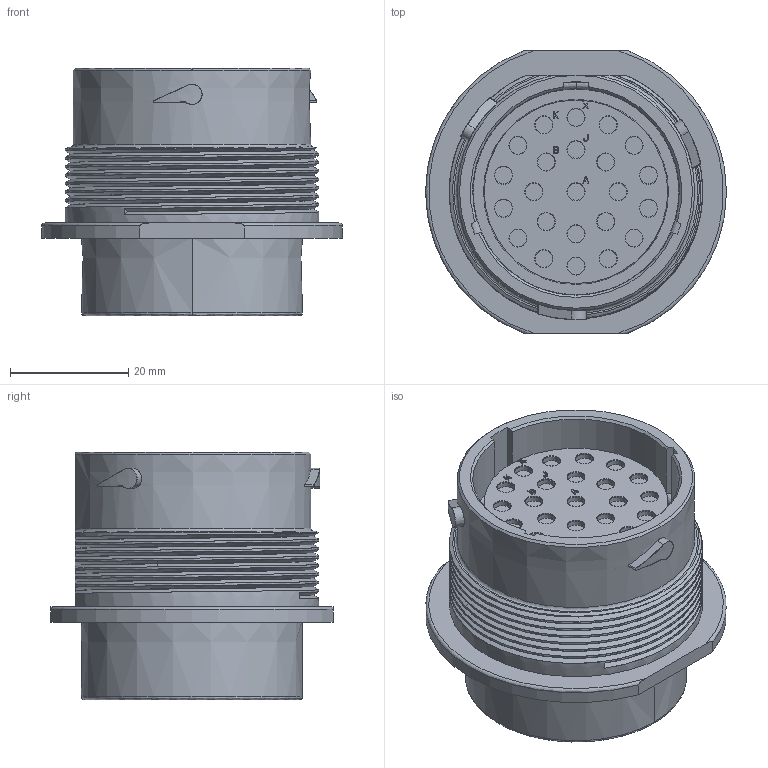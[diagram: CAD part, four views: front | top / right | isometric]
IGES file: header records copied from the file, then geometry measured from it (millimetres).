
Start section:  PTC IGES file: c-hdp24-24-23st-99-3d.igs
Global section: file name: c-hdp24-24-23st-99-3d.igs; native system: Pro/ENGINEER by Parametric Technology Corporation; preprocessor: 2011490; author: workeradm; organization: Unknown; units: millimetre
Bounding box: 50.8 x 47.62 x 41.86 mm (x, y, z)
Surface area: 13985.3 mm2 (no closed solid volume)
Topology: 0 solids, 0 shells, 574 faces, 2592 edges, 2592 vertices
Faces by surface type: revolution 332, bspline 242
